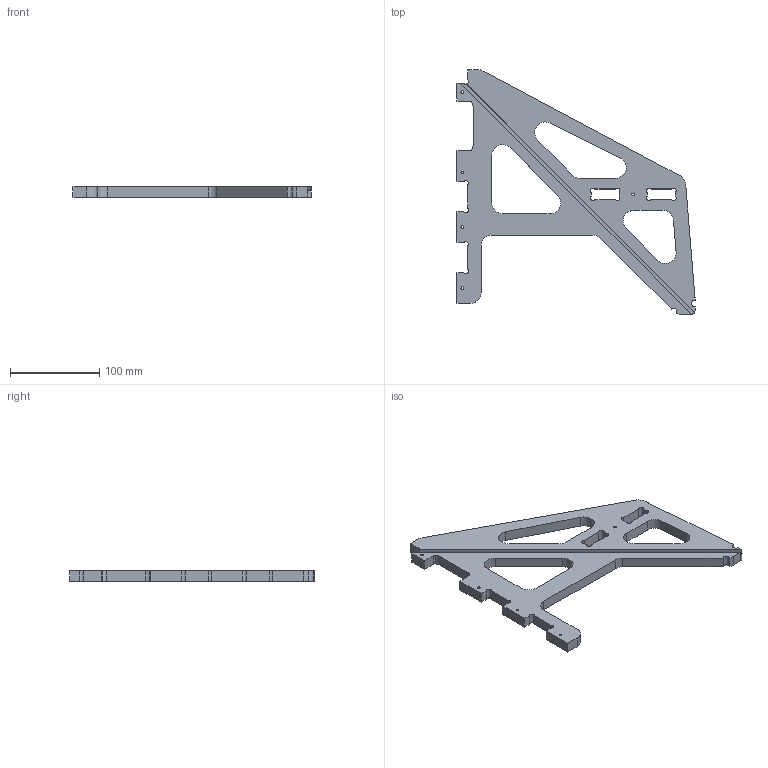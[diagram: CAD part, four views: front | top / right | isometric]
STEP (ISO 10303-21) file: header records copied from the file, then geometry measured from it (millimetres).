
FILE_DESCRIPTION(/* description */ ('','CAx-IF Rec.Pracs.---Representation and Presentation of Product Manufacturing Information (PMI)---4.0---2014-10-13'),/* implementation_level */ '2;1');
FILE_NAME(/* name */ 'TP-Side-Right-12mm.step',/* time_stamp */ '2024-12-17T12:26:36+01:00',/* author */ (''),/* organization */ (''),/* preprocessor_version */ 'ST-DEVELOPER v20',/* originating_system */ 'Autodesk Translation Framework v13.20.0.188',/* authorisation */ '');
FILE_SCHEMA (('AP242_MANAGED_MODEL_BASED_3D_ENGINEERING_MIM_LF { 1 0 10303 442 1 1 4 }'));
Length unit declared in the file: millimetre
Products named in the file (1): Side Right
Bounding box: 267 x 274 x 12 mm (x, y, z)
Volume: 333995 mm3; surface area: 85153 mm2
Topology: 1 solids, 1 shells, 96 faces, 277 edges, 183 vertices
Faces by surface type: plane 49, cylinder 42, cone 5
Full cylindrical faces by diameter (mm): 3 x5
Entity records: 3252 total; most frequent: DIRECTION 562, CARTESIAN_POINT 557, ORIENTED_EDGE 554, EDGE_CURVE 277, AXIS2_PLACEMENT_3D 188, LINE 186, VECTOR 186, VERTEX_POINT 183
